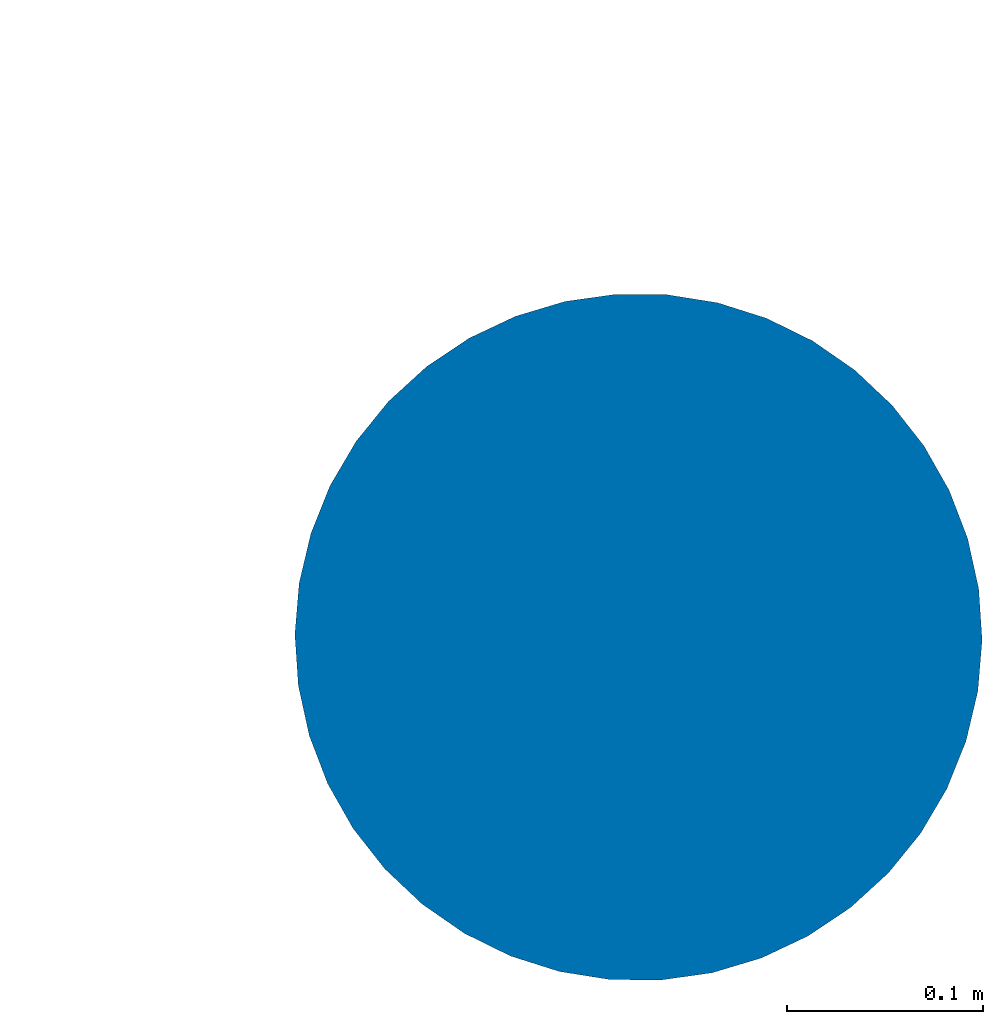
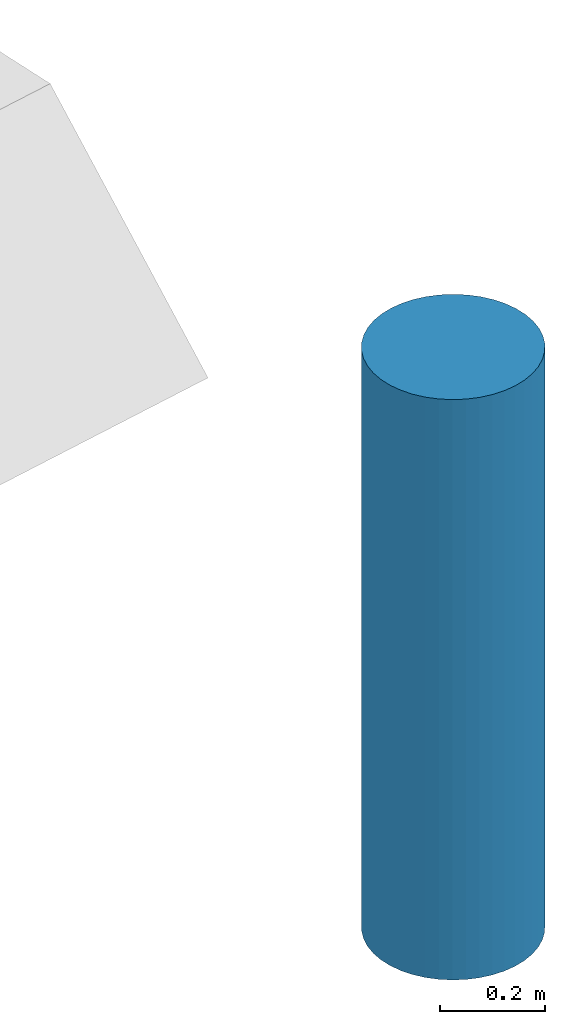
# One storey, part 1 of 2: 1 column.
"""IFC2X3 building model written with IfcOpenShell, lengths in millimetres."""

from ifc_helpers import new_model, entity, si_unit, converted_unit, derived_unit, direction, frame, frame_2d, origin, origin_with_axes, place, context, subcontext, project, spatial, circle, extrude, source, transform, mapped, material, type_object, element, save


model = new_model("IFC2X3")

# Units and contexts
model_context = context("Model", 3, precision=0.01, world=origin(), true_north=direction((6.12323399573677e-17, 1.0)))
plan_context = context("Plan", 3, precision=1e-05, world=origin_with_axes())
body_context = subcontext(model_context, "Body", "Model", "MODEL_VIEW")
ifc_project = project(units=[converted_unit("PLANEANGLEUNIT", "DEGREE", entity("IfcPositiveLengthMeasure", 0.0174532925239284), si_unit("PLANEANGLEUNIT", "RADIAN"), dimensions=[0, 0, 0, 0, 0, 0, 0]), si_unit("AREAUNIT", "SQUARE_METRE"), si_unit("LENGTHUNIT", "METRE", prefix="MILLI"), si_unit("MASSUNIT", "GRAM", prefix="KILO"), si_unit("POWERUNIT", "WATT"), si_unit("PRESSUREUNIT", "PASCAL", prefix="KILO"), si_unit("FORCEUNIT", "NEWTON", prefix="KILO"), si_unit("ELECTRICVOLTAGEUNIT", "VOLT"), si_unit("ELECTRICCURRENTUNIT", "AMPERE"), si_unit("THERMODYNAMICTEMPERATUREUNIT", "DEGREE_CELSIUS"), si_unit("TIMEUNIT", "SECOND"), si_unit("VOLUMEUNIT", "CUBIC_METRE"), derived_unit("LINEARVELOCITYUNIT", [(si_unit("LENGTHUNIT", "METRE"), 1), (si_unit("TIMEUNIT", "SECOND"), -1)]), derived_unit("VOLUMETRICFLOWRATEUNIT", [(si_unit("VOLUMEUNIT", "CUBIC_METRE"), 1), (si_unit("TIMEUNIT", "SECOND"), -1)]), derived_unit("THERMALTRANSMITTANCEUNIT", [(si_unit("POWERUNIT", "WATT"), 1), (si_unit("THERMODYNAMICTEMPERATUREUNIT", "KELVIN"), -1), (si_unit("AREAUNIT", "SQUARE_METRE"), -1)]), derived_unit("SOUNDPRESSUREUNIT", [(si_unit("PRESSUREUNIT", "PASCAL"), 1)])], contexts=[model_context, plan_context])

# Site, building, storey
site_placement = place(None, frame((0.0, 0.0, 0.0), z_axis=(0.0, 0.0, 1.0), x_axis=(0.214788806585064, -0.976660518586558, 0.0)))
site = spatial("IfcSite", under=ifc_project, at=site_placement, Name="Default", CompositionType="ELEMENT")
building_placement = place(site_placement, origin_with_axes())
building = spatial("IfcBuilding", under=site, at=building_placement, CompositionType="ELEMENT")
storey_placement = place(building_placement, frame((0.0, 0.0, 5100.0), z_axis=(0.0, 0.0, 1.0), x_axis=(1.0, 0.0, 0.0)))
storey = spatial("IfcBuildingStorey", under=building, at=storey_placement, Name="PLAN 01. ETG", CompositionType="ELEMENT", Elevation=5100.0)

# Column
ifc_material = material(Name="NO_Betong - Prefab")
column_type = type_object("IfcColumnType", Name="NO_S-Column_Precast_Round:Pullert ø350", PredefinedType="COLUMN", material=ifc_material)
shared_shape = source(origin(), body_context, "Body", "SweptSolid", [
    extrude(circle(Radius=174.999999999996, at=frame_2d((-1.69197988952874e-14, -2.91882289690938e-13), x_axis=(1.0, 0.0))), frame((0.0, 0.0, 4450.0)), (0.0, 0.0, 1.0), 1350.0),
])
column_placement = place(storey_placement, frame((-199651.949004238, 371251.537249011, -5100.0), z_axis=(0.0, 0.0, 1.0), x_axis=(1.0, 0.0, 0.0)))
element("IfcColumn", 1, at=column_placement, inside=storey, type_object=column_type, material=ifc_material, Name="NO_S-Column_Precast_Round:Pullert ø350", ObjectType="NO_S-Column_Precast_Round:Pullert ø350", context=body_context, shape_type="MappedRepresentation", body=[
    mapped(shared_shape, transform((0.0, 0.0, 0.0), scale=1.0)),
])

save(model, "model.ifc")
